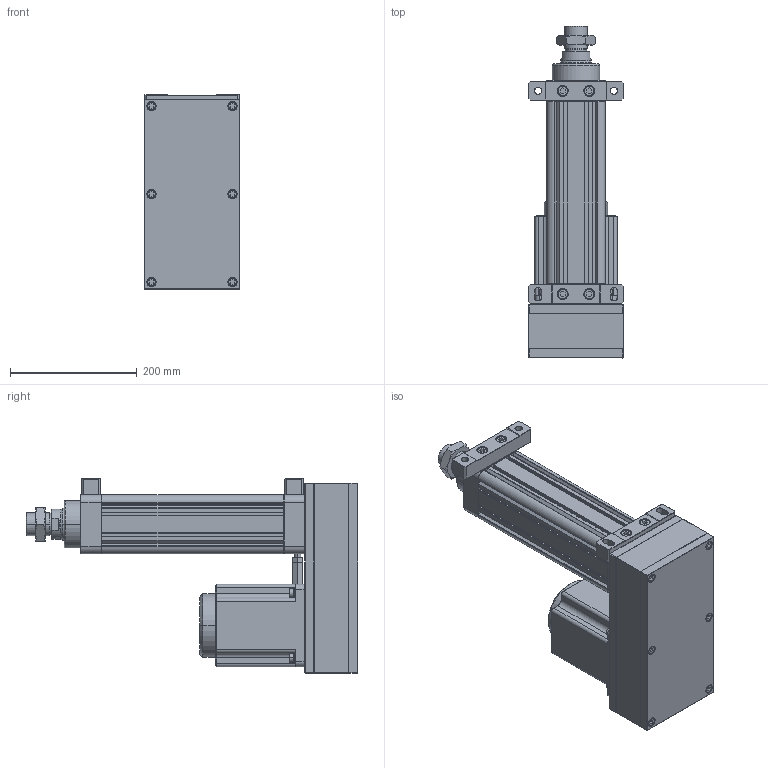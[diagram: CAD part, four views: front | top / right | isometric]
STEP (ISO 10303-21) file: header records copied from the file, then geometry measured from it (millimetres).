
FILE_DESCRIPTION((''),'2;1');
FILE_NAME('HE80-D-P_ASM','2020-04-24T',('ASUS20200'),(''),'CREO PARAMETRIC BY PTC INC, 2014190','CREO PARAMETRIC BY PTC INC, 2014190','');
FILE_SCHEMA(('CONFIG_CONTROL_DESIGN'));
Length unit declared in the file: millimetre
Products named in the file (29): HE80-D-P-001-X1; HE80-D-P-002-X1; HE80-D-P-003-X1; 30304J; YZ-M6X1; SLM-01; JDB506030; HE80-100-D-P-X1_ASM; HE80-P-010-X1-130N; 130ST-M10010; M10X25; HE80-P-009-X1-130N; HE80-P-013-X1-130N; TD-8; M8X35; M8X75; LM-M8-7-5; M10X1-25-40; LM-M10-30; LM-M10; HE80-D-P-005-X1; HE80-D-P-004-X1; HE80-D-P-008-X1; LGLM-M10-25; HE80-P-015-X1; HE80-P-016-X1; TD-10; M10X35; HE80-D-P_ASM
Assembly tree (55 placements, depth 3):
  HE80-D-P_ASM
    HE80-100-D-P-X1_ASM
      HE80-D-P-001-X1
      HE80-D-P-002-X1
      HE80-D-P-003-X1
      30304J  x2
      YZ-M6X1
      SLM-01
      JDB506030
    HE80-P-010-X1-130N
    130ST-M10010
    M10X25  x4
    HE80-P-009-X1-130N
    HE80-P-013-X1-130N
    TD-8  x4
    M8X35  x4
    M8X75  x6
    LM-M8-7-5  x4
    M10X1-25-40
    LM-M10-30
    LM-M10
    HE80-D-P-005-X1
    HE80-D-P-004-X1
    HE80-D-P-008-X1
    LGLM-M10-25  x4
    HE80-P-015-X1
    HE80-P-016-X1
    TD-10  x4
    M10X35  x4
Bounding box: 150 x 524 x 306.5 mm (x, y, z)
Volume: 5672684.2 mm3; surface area: 1069795.7 mm2
Topology: 54 solids, 88 shells, 2811 faces, 6489 edges, 3881 vertices
Faces by surface type: plane 1098, cone 838, cylinder 711, torus 134, sphere 26, bspline 4
Entity records: 64416 total; most frequent: CARTESIAN_POINT 12481, DIRECTION 11342, ORIENTED_EDGE 10112, EDGE_CURVE 5115, AXIS2_PLACEMENT_3D 4253, VERTEX_POINT 3056, VECTOR 2836, LINE 2836
